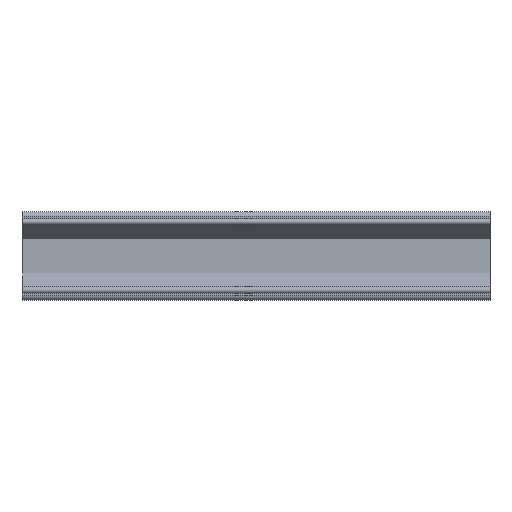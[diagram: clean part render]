
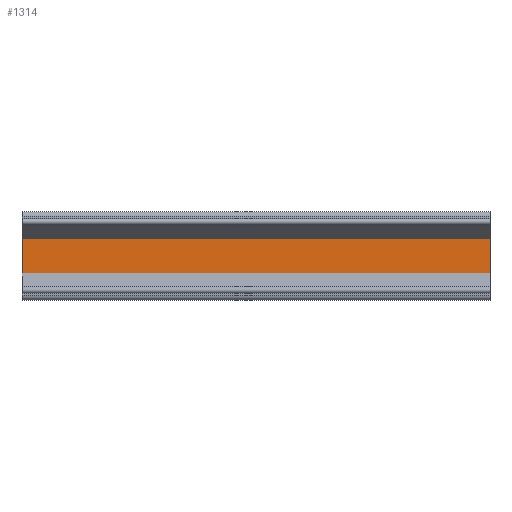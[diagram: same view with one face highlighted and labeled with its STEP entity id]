
A CAD part, top view. The second image highlights one B-rep face of the part: STEP entity #1314.
In plain terms, the highlighted planar face has unit normal (0, 0, 1).
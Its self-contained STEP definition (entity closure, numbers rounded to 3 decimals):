
#20 = EDGE_CURVE ( 'NONE', #75, #1528, #452, .T. ) ;
#75 = VERTEX_POINT ( 'NONE', #1180 ) ;
#194 = EDGE_CURVE ( 'NONE', #1045, #989, #680, .T. ) ;
#279 = AXIS2_PLACEMENT_3D ( 'NONE', #350, #839, #1341 ) ;
#319 = CARTESIAN_POINT ( 'NONE',  ( -25., 3., 0.7 ) ) ;
#322 = CARTESIAN_POINT ( 'NONE',  ( 25., -3., 0.7 ) ) ;
#336 = EDGE_CURVE ( 'NONE', #75, #1045, #1007, .T. ) ;
#350 = CARTESIAN_POINT ( 'NONE',  ( -25., -3., 0.7 ) ) ;
#365 = ORIENTED_EDGE ( 'NONE', *, *, #20, .F. ) ;
#386 = VECTOR ( 'NONE', #535, 1000. ) ;
#432 = CARTESIAN_POINT ( 'NONE',  ( -25., -3., 0.7 ) ) ;
#452 = LINE ( 'NONE', #1429, #895 ) ;
#470 = EDGE_CURVE ( 'NONE', #1528, #989, #1278, .T. ) ;
#535 = DIRECTION ( 'NONE',  ( 1., 0., 0. ) ) ;
#537 = ORIENTED_EDGE ( 'NONE', *, *, #194, .T. ) ;
#653 = CARTESIAN_POINT ( 'NONE',  ( -25., 3., 0.7 ) ) ;
#680 = LINE ( 'NONE', #322, #841 ) ;
#742 = CARTESIAN_POINT ( 'NONE',  ( 25., 3., 0.7 ) ) ;
#839 = DIRECTION ( 'NONE',  ( 0., 0., -1. ) ) ;
#841 = VECTOR ( 'NONE', #1320, 1000. ) ;
#895 = VECTOR ( 'NONE', #1195, 1000. ) ;
#970 = ORIENTED_EDGE ( 'NONE', *, *, #470, .F. ) ;
#989 = VERTEX_POINT ( 'NONE', #742 ) ;
#1007 = LINE ( 'NONE', #432, #1082 ) ;
#1045 = VERTEX_POINT ( 'NONE', #1259 ) ;
#1082 = VECTOR ( 'NONE', #1188, 1000. ) ;
#1124 = EDGE_LOOP ( 'NONE', ( #537, #970, #365, #1373 ) ) ;
#1180 = CARTESIAN_POINT ( 'NONE',  ( -25., -3., 0.7 ) ) ;
#1188 = DIRECTION ( 'NONE',  ( 1., 0., 0. ) ) ;
#1195 = DIRECTION ( 'NONE',  ( 0., 1., 0. ) ) ;
#1214 = FACE_OUTER_BOUND ( 'NONE', #1124, .T. ) ;
#1259 = CARTESIAN_POINT ( 'NONE',  ( 25., -3., 0.7 ) ) ;
#1278 = LINE ( 'NONE', #653, #386 ) ;
#1314 = ADVANCED_FACE ( 'NONE', ( #1214 ), #1459, .F. ) ;
#1320 = DIRECTION ( 'NONE',  ( 0., 1., 0. ) ) ;
#1341 = DIRECTION ( 'NONE',  ( 0., 1., 0. ) ) ;
#1373 = ORIENTED_EDGE ( 'NONE', *, *, #336, .T. ) ;
#1429 = CARTESIAN_POINT ( 'NONE',  ( -25., -3., 0.7 ) ) ;
#1459 = PLANE ( 'NONE',  #279 ) ;
#1528 = VERTEX_POINT ( 'NONE', #319 ) ;
